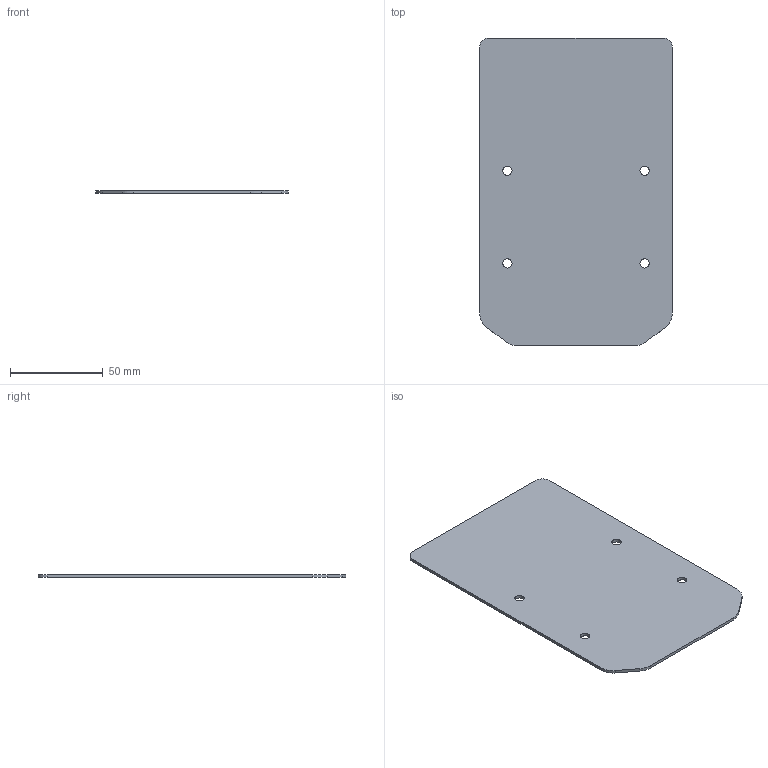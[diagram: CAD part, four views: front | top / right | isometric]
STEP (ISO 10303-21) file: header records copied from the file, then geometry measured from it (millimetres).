
FILE_DESCRIPTION(('Open CASCADE Model'),'2;1');
FILE_NAME('Open CASCADE Shape Model','2026-10-01T15:23:51',('Author'),( 'Open CASCADE'),'Open CASCADE STEP processor 7.9','Open CASCADE 7.9' ,'Unknown');
FILE_SCHEMA(('AUTOMOTIVE_DESIGN { 1 0 10303 214 1 1 1 1 }'));
Length unit declared in the file: millimetre
Products named in the file (1): Open CASCADE STEP translator 7.9 10
Bounding box: 104 x 166 x 1.6 mm (x, y, z)
Volume: 27110.8 mm3; surface area: 34815.7 mm2
Topology: 1 solids, 1 shells, 18 faces, 48 edges, 32 vertices
Faces by surface type: cylinder 10, plane 8
Full cylindrical faces by diameter (mm): 5 x4
Entity records: 1246 total; most frequent: CARTESIAN_POINT 243, DIRECTION 194, LINE 104, VECTOR 104, ORIENTED_EDGE 96, PCURVE 96, DEFINITIONAL_REPRESENTATION 96, EDGE_CURVE 48
